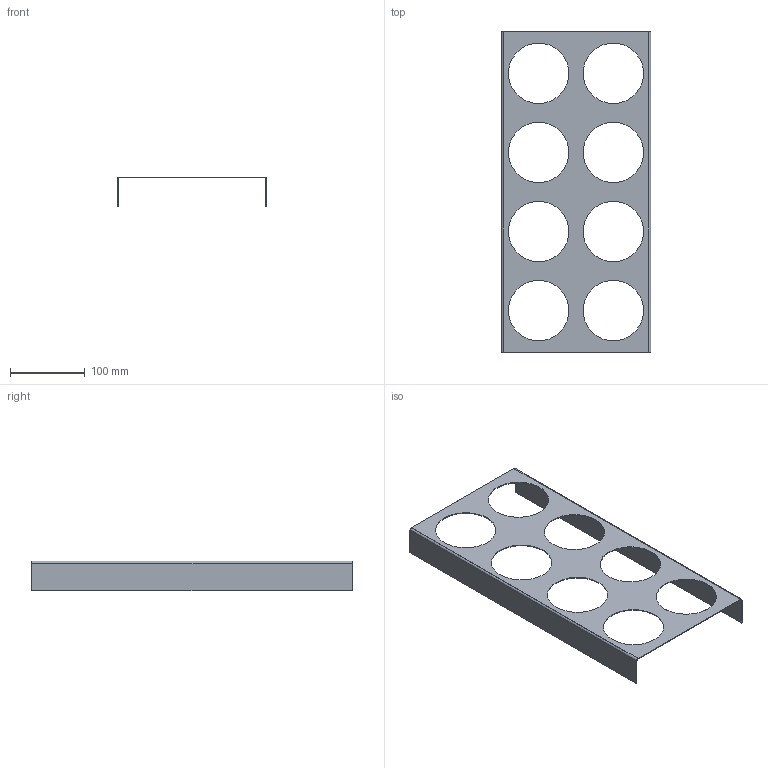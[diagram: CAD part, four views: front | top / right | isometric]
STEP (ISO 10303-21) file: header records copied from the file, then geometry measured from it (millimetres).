
FILE_DESCRIPTION (( 'STEP AP214' ), '1' );
FILE_NAME ('Gewuerzeinsatz_68317-01.STEP', '2010-10-25T13:40:33', ( 'grass' ), ( '' ), 'SwSTEP 2.0', 'SolidWorks 2010', '' );
FILE_SCHEMA (( 'AUTOMOTIVE_DESIGN' ));
Length unit declared in the file: millimetre
Products named in the file (1): Gewuerzeinsatz_68317-01
Bounding box: 200 x 429 x 40 mm (x, y, z)
Volume: 77117.4 mm3; surface area: 157680.2 mm2
Topology: 1 solids, 1 shells, 30 faces, 84 edges, 56 vertices
Faces by surface type: cylinder 20, plane 10
Entity records: 1054 total; most frequent: DIRECTION 186, CARTESIAN_POINT 171, ORIENTED_EDGE 168, EDGE_CURVE 84, AXIS2_PLACEMENT_3D 71, VERTEX_POINT 56, EDGE_LOOP 46, LINE 44
